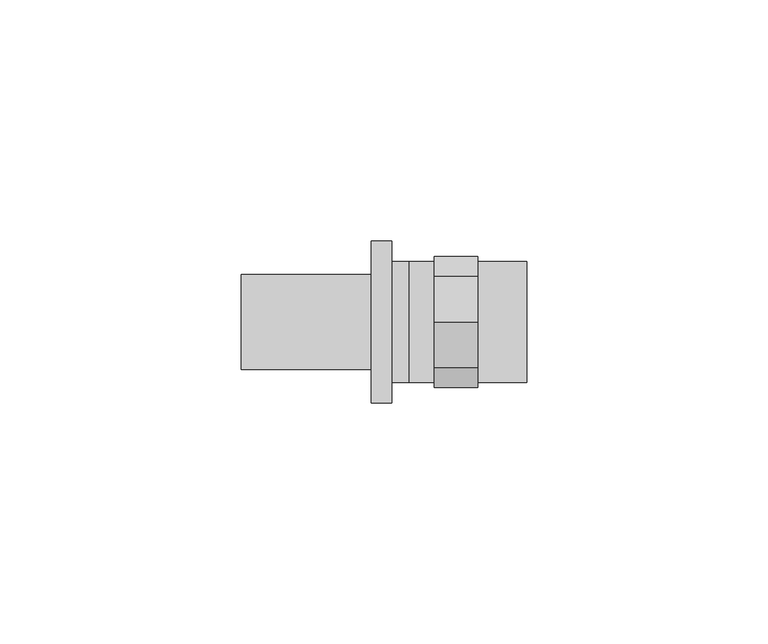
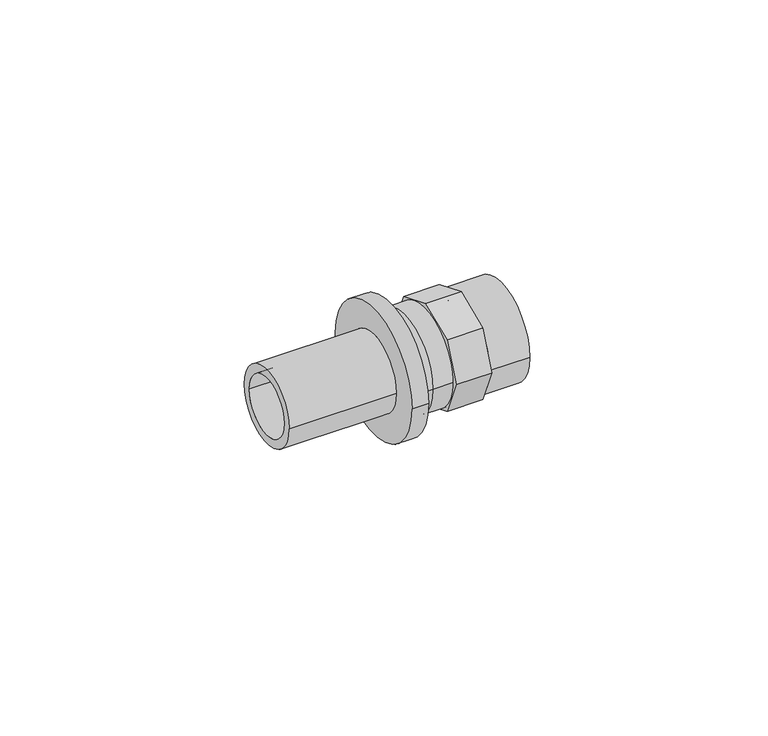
"""IFC4 building model written with IfcOpenShell, lengths in millimetres: pipe fitting geometry, REHAU_RAUTITAN_Adaptor_RX+, with internal thread : REHAU_RAUTITAN_Adaptor_RX+, with internal thread."""

import ifcopenshell
import ifcopenshell.guid

model = None  # the IFC model being written
_history = None  # IfcOwnerHistory: only IFC2X3 demands one
_inside = {}  # id of a spatial element -> (the spatial element, [elements in it])
_under = {}  # id of a project, library or spatial element -> (it, [spatial elements below it])
_declared = {}  # id of a project -> (the project, [libraries it declares])
_typed = {}  # id of a type object -> (the type object, [elements of that type])
_made_of = {}  # id of a material, layer set ... -> (it, [elements and type objects made of it])


def new_model(schema):
    """Start an empty IFC model of exactly this schema.

    Asked for "IFC4X3", IfcOpenShell would pick the latest addendum, in which some entities
    have other attributes; the version numbers below select the first issue.
    IFC2X3 requires an IfcOwnerHistory on every rooted entity: one is made here for all.
    """
    global model, _history
    if schema == "IFC4X3":
        model = ifcopenshell.file(schema_version=(4, 3, 0, 0))
    else:
        model = ifcopenshell.file(schema=schema)
    _inside.clear()
    _under.clear()
    _declared.clear()
    _typed.clear()
    _made_of.clear()
    _history = None
    if model.schema == "IFC2X3":
        org = make("IfcOrganization", Name="unknown")
        user = make(
            "IfcPersonAndOrganization",
            ThePerson=make("IfcPerson", FamilyName="unknown"),
            TheOrganization=org,
        )
        app = make(
            "IfcApplication",
            ApplicationDeveloper=org,
            Version="unknown",
            ApplicationFullName="unknown",
            ApplicationIdentifier="unknown",
        )
        _history = make(
            "IfcOwnerHistory",
            OwningUser=user,
            OwningApplication=app,
            ChangeAction="ADDED",
            CreationDate=0,
        )
    return model


def make(cls, **values):
    """One entity of the class cls with the attributes given. An attribute that is None is left unset."""
    return model.create_entity(
        cls, **{name: value for name, value in values.items() if value is not None}
    )


def rooted(cls, **values):
    """An entity with a GlobalId (a new one), such as an element, a storey or a relation."""
    return make(cls, GlobalId=ifcopenshell.guid.new(), OwnerHistory=_history, **values)


def si_unit(unit_type, name, prefix=None):
    """IfcSIUnit, for example si_unit("LENGTHUNIT", "METRE", prefix="MILLI")."""
    return make("IfcSIUnit", UnitType=unit_type, Prefix=prefix, Name=name)


def assignment(units):
    """IfcUnitAssignment: the units of a project."""
    return None if units is None else make("IfcUnitAssignment", Units=units)


def point(xyz):
    """IfcCartesianPoint."""
    return None if xyz is None else make("IfcCartesianPoint", Coordinates=xyz)


def direction(xyz):
    """IfcDirection."""
    return None if xyz is None else make("IfcDirection", DirectionRatios=xyz)


def frame(location, z_axis=None, x_axis=None):
    """IfcAxis2Placement3D, a coordinate frame: its origin and axes. An axis left out is left unset."""
    return make(
        "IfcAxis2Placement3D",
        Location=point(location),
        Axis=direction(z_axis),
        RefDirection=direction(x_axis),
    )


def frame_2d(location, x_axis=None):
    """IfcAxis2Placement2D, a coordinate frame in the plane: its origin and x axis."""
    return make(
        "IfcAxis2Placement2D", Location=point(location), RefDirection=direction(x_axis)
    )


def origin():
    """The frame at (0, 0, 0) with its axes left unset."""
    return frame((0.0, 0.0, 0.0))


def origin_2d():
    """The frame at (0, 0) in the plane with its x axis left unset."""
    return frame_2d((0.0, 0.0))


def place(relative_to, where):
    """IfcLocalPlacement: puts the frame where relative to a parent placement (None: the world)."""
    return make(
        "IfcLocalPlacement", PlacementRelTo=relative_to, RelativePlacement=where
    )


def context(
    kind, dimensions, precision=None, world=None, true_north=None, identifier=None
):
    """IfcGeometricRepresentationContext, for example the 3D "Model" context."""
    return make(
        "IfcGeometricRepresentationContext",
        ContextIdentifier=identifier,
        ContextType=kind,
        CoordinateSpaceDimension=dimensions,
        Precision=precision,
        WorldCoordinateSystem=world,
        TrueNorth=true_north,
    )


def project(units=None, contexts=None):
    """IfcProject with its units and contexts."""
    return rooted(
        "IfcProject",
        Name="project",
        RepresentationContexts=contexts,
        UnitsInContext=assignment(units),
    )


def spatial(cls, under=None, at=None, **own):
    """A site, building, storey or space (cls), placed at a placement, below another one or the project."""
    s = rooted(cls, ObjectPlacement=at, **own)
    if under is not None:
        _under.setdefault(under.id(), (under, []))[1].append(s)
    return s


def polyline(points):
    """IfcPolyline through the points."""
    return make("IfcPolyline", Points=[point(p) for p in points])


def circle_curve(where, radius):
    """IfcCircle in the frame where."""
    return make("IfcCircle", Position=where, Radius=radius)


def trimmed(basis, trim1, trim2, sense, master):
    """IfcTrimmedCurve: the piece of a basis curve between two trims."""
    return make(
        "IfcTrimmedCurve",
        BasisCurve=basis,
        Trim1=trim1,
        Trim2=trim2,
        SenseAgreement=sense,
        MasterRepresentation=master,
    )


def segment(curve, same_sense, transition):
    """IfcCompositeCurveSegment."""
    return make(
        "IfcCompositeCurveSegment",
        Transition=transition,
        SameSense=same_sense,
        ParentCurve=curve,
    )


def composite_curve(segments, self_intersect=None):
    """IfcCompositeCurve: segments joined end to end."""
    return make("IfcCompositeCurve", Segments=segments, SelfIntersect=self_intersect)


def outline(outer, holes=None, kind="AREA"):
    """IfcArbitraryClosedProfileDef: a profile drawn as a closed curve; with holes, ...WithVoids."""
    if holes is None:
        return make("IfcArbitraryClosedProfileDef", ProfileType=kind, OuterCurve=outer)
    return make(
        "IfcArbitraryProfileDefWithVoids",
        ProfileType=kind,
        OuterCurve=outer,
        InnerCurves=holes,
    )


def extrude(swept, where, along, depth):
    """IfcExtrudedAreaSolid: the profile swept, set in the frame where, extruded along a direction by depth."""
    return make(
        "IfcExtrudedAreaSolid",
        SweptArea=swept,
        Position=where,
        ExtrudedDirection=direction(along),
        Depth=depth,
    )


def shape(context_of_items, identifier, shape_type, items):
    """IfcShapeRepresentation: the items that make up one representation, for example the "Body"."""
    return make(
        "IfcShapeRepresentation",
        ContextOfItems=context_of_items,
        RepresentationIdentifier=identifier,
        RepresentationType=shape_type,
        Items=items,
    )


def source(mapping_origin, context_of_items, identifier, shape_type, items):
    """IfcRepresentationMap: a shape defined once, which mapped items show again and again."""
    return make(
        "IfcRepresentationMap",
        MappingOrigin=mapping_origin,
        MappedRepresentation=shape(context_of_items, identifier, shape_type, items),
    )


def transform(
    local_origin,
    x_axis=None,
    y_axis=None,
    z_axis=None,
    scale=None,
    scale2=None,
    scale3=None,
    uniform=True,
):
    """IfcCartesianTransformationOperator3D, or its non-uniform kind. x_axis, y_axis, z_axis: its Axis1, 2, 3."""
    if uniform:
        return make(
            "IfcCartesianTransformationOperator3D",
            Axis1=direction(x_axis),
            Axis2=direction(y_axis),
            LocalOrigin=point(local_origin),
            Scale=scale,
            Axis3=direction(z_axis),
        )
    return make(
        "IfcCartesianTransformationOperator3DnonUniform",
        Axis1=direction(x_axis),
        Axis2=direction(y_axis),
        LocalOrigin=point(local_origin),
        Scale=scale,
        Axis3=direction(z_axis),
        Scale2=scale2,
        Scale3=scale3,
    )


def mapped(mapping_source, mapping_target):
    """IfcMappedItem: shows the shape of a source again, moved by a transform."""
    return make(
        "IfcMappedItem", MappingSource=mapping_source, MappingTarget=mapping_target
    )


def made_of(thing, what):
    """Note that an element or type object is made of a material, layer set ...; save() writes the relation."""
    if what is not None:
        _made_of.setdefault(what.id(), (what, []))[1].append(thing)
    return thing


def element(
    cls,
    number,
    at=None,
    inside=None,
    cuts=None,
    type_object=None,
    material=None,
    context=None,
    identifier="Body",
    shape_type=None,
    held_by="IfcProductDefinitionShape",
    body=None,
    shapes=None,
    **own,
):
    """One element of the class cls, such as IfcWall. Its Tag is "e" and its number.

    at: its placement. inside: the storey or other place that contains it. cuts: it is an
    opening in that element (IfcRelVoidsElement). A single representation is given by context,
    identifier, shape_type and body (its items); several are given by shapes. held_by: the class
    of the entity that holds the representations. save() writes the other relations.
    """
    e = rooted(cls, Tag="e%d" % number, ObjectPlacement=at, **own)
    if body is not None:
        shapes = [shape(context, identifier, shape_type, body)]
    if shapes is not None:
        e.Representation = make(held_by, Representations=shapes)
    if inside is not None:
        _inside.setdefault(inside.id(), (inside, []))[1].append(e)
    if cuts is not None:
        rooted(
            "IfcRelVoidsElement", RelatingBuildingElement=cuts, RelatedOpeningElement=e
        )
    if type_object is not None:
        _typed.setdefault(type_object.id(), (type_object, []))[1].append(e)
    return made_of(e, material)


def aggregate(whole, parts):
    """IfcRelAggregates: a whole, such as a stair, and the parts it consists of."""
    return rooted("IfcRelAggregates", RelatingObject=whole, RelatedObjects=parts)


def save(model, path):
    """Write the relations noted so far, then the file.

    IfcRelAggregates (storeys below a building ...), IfcRelContainedInSpatialStructure (elements
    in a storey), IfcRelDefinesByType, IfcRelAssociatesMaterial and IfcRelDeclares: one each for
    every whole, place, type object, material and project.
    """
    for whole, parts in _under.values():
        aggregate(whole, parts)
    for where, things in _inside.values():
        rooted(
            "IfcRelContainedInSpatialStructure",
            RelatedElements=things,
            RelatingStructure=where,
        )
    for kind, things in _typed.values():
        rooted("IfcRelDefinesByType", RelatedObjects=things, RelatingType=kind)
    for what, things in _made_of.values():
        rooted("IfcRelAssociatesMaterial", RelatedObjects=things, RelatingMaterial=what)
    for by, libraries in _declared.values():
        rooted("IfcRelDeclares", RelatingContext=by, RelatedDefinitions=libraries)
    model.write(path)


def plane_surface(at):
    """IfcPlane: the flat surface through the origin of the frame at, square to its z axis."""
    return make("IfcPlane", Position=at)


def cylinder_surface(at, radius):
    """IfcCylindricalSurface: all points at the distance radius from the z axis of the frame at."""
    return make("IfcCylindricalSurface", Position=at, Radius=radius)


def revolved_surface(curve, axis_point, axis_direction):
    """IfcSurfaceOfRevolution: the curve turned about the line through axis_point along axis_direction."""
    return make(
        "IfcSurfaceOfRevolution",
        SweptCurve=make("IfcArbitraryOpenProfileDef", ProfileType="CURVE", Curve=curve),
        AxisPosition=make("IfcAxis1Placement", Location=point(axis_point), Axis=direction(axis_direction)),
    )


def advanced_brep(points, edges, surfaces, faces):
    """IfcAdvancedBrep: a solid bounded by faces that lie on surfaces and meet in shared edges.

    An edge is (start, end): straight between two places in points (the first is 0);
    or (start, end, curve); or (start, end, curve, False) where it runs against its curve.
    A face is (place in surfaces, loops), or (place, loops, False) where it looks against
    its surface's normal. A loop lists edges by number (the first is 1), with a minus sign
    where the edge is run from its end to its start. The first loop is the outer one.
    """
    corners = [point(p) for p in points]
    vertices = [make("IfcVertexPoint", VertexGeometry=c) for c in corners]
    made = []
    for start, end, *more in edges:
        made.append(
            make(
                "IfcEdgeCurve",
                EdgeStart=vertices[start],
                EdgeEnd=vertices[end],
                EdgeGeometry=more[0] if more else make("IfcPolyline", Points=[corners[start], corners[end]]),
                SameSense=more[1] if len(more) > 1 else True,
            )
        )
    hull = []
    for where, loops, *sense in faces:
        bounds = []
        for j, loop in enumerate(loops):
            ring = [make("IfcOrientedEdge", EdgeElement=made[abs(k) - 1], Orientation=k > 0) for k in loop]
            bounds.append(
                make(
                    "IfcFaceOuterBound" if j == 0 else "IfcFaceBound",
                    Bound=make("IfcEdgeLoop", EdgeList=ring),
                    Orientation=True,
                )
            )
        hull.append(make("IfcAdvancedFace", Bounds=bounds, FaceSurface=surfaces[where], SameSense=sense[0] if sense else True))
    return make("IfcAdvancedBrep", Outer=make("IfcClosedShell", CfsFaces=hull))


def pipe_fitting_62e479d9(model_context):
    return source(origin(), model_context, "Body", "SolidModel", [
        extrude(outline(polyline([(-9.5670858, 9.5670858), (0.0, 13.5299025), (9.5670858, 9.5670858), (13.5299025, 0.0), (9.5670858, -9.5670858), (0.0, -13.5299025), (-9.5670858, -9.5670858), (-13.5299025, 0.0), (-9.5670858, 9.5670858)]), holes=[composite_curve([segment(trimmed(circle_curve(origin_2d(), 9.5), [point((-9.5, 0.0))], [point((9.5, 0.0))], True, "CARTESIAN"), True, "CONTINUOUS"), segment(trimmed(circle_curve(origin_2d(), 9.5), [point((9.5, 0.0))], [point((-9.5, 0.0))], True, "CARTESIAN"), True, "CONTINUOUS")], self_intersect=False)]), frame((-4.5, 0.0, 0.0), z_axis=(1.0, 0.0, 0.0), x_axis=(0.0, 1.0, 0.0)), (0.0, 0.0, 1.0), 9.0),
        extrude(outline(composite_curve([segment(trimmed(circle_curve(origin_2d(), 12.5), [point((-12.5, 0.0))], [point((12.5, 0.0))], False, "CARTESIAN"), True, "CONTINUOUS"), segment(trimmed(circle_curve(origin_2d(), 12.5), [point((12.5, 0.0))], [point((-12.5, 0.0))], False, "CARTESIAN"), True, "CONTINUOUS")], self_intersect=False), holes=[composite_curve([segment(trimmed(circle_curve(origin_2d(), 10.19), [point((-10.19, 0.0))], [point((10.19, 0.0))], True, "CARTESIAN"), True, "CONTINUOUS"), segment(trimmed(circle_curve(origin_2d(), 10.19), [point((10.19, 0.0))], [point((-10.19, 0.0))], True, "CARTESIAN"), True, "CONTINUOUS")], self_intersect=False)]), frame((4.5, 0.0, 0.0), z_axis=(1.0, 0.0, 0.0), x_axis=(0.0, 1.0, 0.0)), (0.0, 0.0, 1.0), 10.14),
        advanced_brep(
        [(-9.82, 12.5, 0.0), (-9.82, -12.5, 0.0), (-13.36, -12.5, 0.0), (-13.36, 12.5, 0.0), (-4.36, 12.5, 0.0), (-4.36, -12.5, 0.0), (-9.82, 10.19, 0.0), (-9.82, -10.19, 0.0), (-4.36, -10.19, 0.0), (-4.36, 10.19, 0.0), (-44.56, 7.6, 0.0), (-44.56, -7.6, 0.0), (-13.36, -7.6, 0.0), (-13.36, 7.6, 0.0), (-17.57, 9.875, 0.0), (-17.57, -9.875, 0.0), (-44.56, -9.875, 0.0), (-44.56, 9.875, 0.0), (-13.36, 16.795, 0.0), (-13.36, -16.795, 0.0), (-17.57, -16.795, 0.0), (-17.57, 16.795, 0.0)],
        [
            (0, 1, circle_curve(frame((-9.82, 0.0, 0.0), z_axis=(-1.0, 0.0, 0.0), x_axis=(0.0, -1.0, 0.0)), 12.5)),
            (1, 2),
            (2, 3, circle_curve(frame((-13.36, 0.0, 0.0), z_axis=(1.0, 0.0, 0.0), x_axis=(0.0, -1.0, 0.0)), 12.5)),
            (3, 0),
            (4, 5, circle_curve(frame((-4.36, 0.0, 0.0), z_axis=(-1.0, 0.0, 0.0), x_axis=(0.0, -1.0, 0.0)), 12.5)),
            (5, 1),
            (0, 4),
            (6, 7, circle_curve(frame((-9.82, 0.0, 0.0), z_axis=(-1.0, 0.0, 0.0), x_axis=(0.0, -1.0, 0.0)), 10.19)),
            (7, 8),
            (8, 9, circle_curve(frame((-4.36, 0.0, 0.0), z_axis=(1.0, 0.0, 0.0), x_axis=(0.0, -1.0, 0.0)), 10.19)),
            (9, 6),
            (10, 11, circle_curve(frame((-44.56, 0.0, 0.0), z_axis=(-1.0, 0.0, 0.0), x_axis=(0.0, -1.0, 0.0)), 7.6)),
            (11, 12),
            (12, 13, circle_curve(frame((-13.36, 0.0, 0.0), z_axis=(1.0, 0.0, 0.0), x_axis=(0.0, -1.0, 0.0)), 7.6)),
            (13, 10),
            (14, 15, circle_curve(frame((-17.57, 0.0, 0.0), z_axis=(-1.0, 0.0, 0.0), x_axis=(0.0, -1.0, 0.0)), 9.875)),
            (15, 16),
            (16, 17, circle_curve(frame((-44.56, 0.0, 0.0), z_axis=(1.0, 0.0, 0.0), x_axis=(0.0, -1.0, 0.0)), 9.875)),
            (17, 14),
            (18, 19, circle_curve(frame((-13.36, 0.0, 0.0), z_axis=(-1.0, 0.0, 0.0), x_axis=(0.0, -1.0, 0.0)), 16.795)),
            (19, 20),
            (20, 21, circle_curve(frame((-17.57, 0.0, 0.0), z_axis=(1.0, 0.0, 0.0), x_axis=(0.0, -1.0, 0.0)), 16.795)),
            (21, 18),
            (18, 19, circle_curve(frame((-13.36, 0.0, 0.0), z_axis=(1.0, 0.0, 0.0), x_axis=(0.0, 1.0, 0.0)), 16.795)),
            (2, 3, circle_curve(frame((-13.36, 0.0, 0.0), z_axis=(-1.0, 0.0, 0.0), x_axis=(0.0, 1.0, 0.0)), 12.5)),
            (1, 0, circle_curve(frame((-9.82, 0.0, 0.0), z_axis=(-1.0, 0.0, 0.0), x_axis=(0.0, 1.0, 0.0)), 12.5)),
            (5, 4, circle_curve(frame((-4.36, 0.0, 0.0), z_axis=(-1.0, 0.0, 0.0), x_axis=(0.0, 1.0, 0.0)), 12.5)),
            (7, 6, circle_curve(frame((-9.82, 0.0, 0.0), z_axis=(-1.0, 0.0, 0.0), x_axis=(0.0, 1.0, 0.0)), 10.19)),
            (9, 8, circle_curve(frame((-4.36, 0.0, 0.0), z_axis=(1.0, 0.0, 0.0), x_axis=(0.0, 1.0, 0.0)), 10.19)),
            (11, 10, circle_curve(frame((-44.56, 0.0, 0.0), z_axis=(-1.0, 0.0, 0.0), x_axis=(0.0, 1.0, 0.0)), 7.6)),
            (13, 12, circle_curve(frame((-13.36, 0.0, 0.0), z_axis=(1.0, 0.0, 0.0), x_axis=(0.0, 1.0, 0.0)), 7.6)),
            (16, 17, circle_curve(frame((-44.56, 0.0, 0.0), z_axis=(-1.0, 0.0, 0.0), x_axis=(0.0, 1.0, 0.0)), 9.875)),
            (15, 14, circle_curve(frame((-17.57, 0.0, 0.0), z_axis=(-1.0, 0.0, 0.0), x_axis=(0.0, 1.0, 0.0)), 9.875)),
            (20, 21, circle_curve(frame((-17.57, 0.0, 0.0), z_axis=(-1.0, 0.0, 0.0), x_axis=(0.0, 1.0, 0.0)), 16.795)),
            (12, 7),
            (6, 13),
        ],
        [
            cylinder_surface(frame((0.0, 0.0, 0.0), z_axis=(1.0, 0.0, 0.0), x_axis=(0.0, -1.0, 0.0)), 12.5),
            revolved_surface(polyline([(-4.36, -10.19, 0.0), (-9.82, -10.19, 0.0)]), (0.0, 0.0, 0.0), (1.0, 0.0, 0.0)),
            revolved_surface(polyline([(-13.36, -7.6, 0.0), (-44.56, -7.6, 0.0)]), (0.0, 0.0, 0.0), (1.0, 0.0, 0.0)),
            cylinder_surface(frame((0.0, 0.0, 0.0), z_axis=(1.0, 0.0, 0.0), x_axis=(0.0, -1.0, 0.0)), 9.875),
            cylinder_surface(frame((0.0, 0.0, 0.0), z_axis=(1.0, 0.0, 0.0), x_axis=(0.0, -1.0, 0.0)), 16.795),
            plane_surface(frame((-13.36, 0.0, 0.0), z_axis=(1.0, 0.0, 0.0), x_axis=(0.0, 1.0, 0.0))),
            cylinder_surface(frame((0.0, 0.0, 0.0), z_axis=(1.0, 0.0, 0.0), x_axis=(0.0, 1.0, 0.0)), 12.5),
            revolved_surface(polyline([(-4.36, 10.19, 0.0), (-9.82, 10.19, 0.0)]), (0.0, 0.0, 0.0), (1.0, 0.0, 0.0)),
            revolved_surface(polyline([(-13.36, 7.6, 0.0), (-44.56, 7.6, 0.0)]), (0.0, 0.0, 0.0), (1.0, 0.0, 0.0)),
            plane_surface(frame((-44.56, 0.0, 0.0), z_axis=(-1.0, 0.0, 0.0), x_axis=(0.0, 1.0, 0.0))),
            cylinder_surface(frame((0.0, 0.0, 0.0), z_axis=(1.0, 0.0, 0.0), x_axis=(0.0, 1.0, 0.0)), 9.875),
            plane_surface(frame((-17.57, 0.0, 0.0), z_axis=(-1.0, 0.0, 0.0), x_axis=(0.0, 1.0, 0.0))),
            cylinder_surface(frame((0.0, 0.0, 0.0), z_axis=(1.0, 0.0, 0.0), x_axis=(0.0, 1.0, 0.0)), 16.795),
            revolved_surface(polyline([(-9.82, -10.19, 0.0), (-13.36, -7.6, 0.0)]), (0.0, 0.0, 0.0), (1.0, 0.0, 0.0)),
            revolved_surface(polyline([(-9.82, 10.19, 0.0), (-13.36, 7.6, 0.0)]), (0.0, 0.0, 0.0), (1.0, 0.0, 0.0)),
            plane_surface(frame((-4.36, 0.0, 0.0), z_axis=(1.0, 0.0, 0.0), x_axis=(0.0, 1.0, 0.0))),
        ],
        [
            (0, [[1, 2, 3, 4]]),
            (0, [[5, 6, -1, 7]]),
            (1, [[8, 9, 10, 11]]),
            (2, [[12, 13, 14, 15]]),
            (3, [[16, 17, 18, 19]]),
            (4, [[20, 21, 22, 23]]),
            (5, [[24, -20], [25, -3]]),
            (6, [[26, -4, -25, -2]]),
            (6, [[27, -7, -26, -6]]),
            (7, [[28, -11, 29, -9]]),
            (8, [[30, -15, 31, -13]]),
            (9, [[32, -18], [-30, -12]]),
            (10, [[33, -19, -32, -17]]),
            (11, [[34, -22], [-33, -16]]),
            (12, [[-24, -23, -34, -21]]),
            (13, [[-14, 35, -8, 36]]),
            (14, [[-31, -36, -28, -35]]),
            (15, [[-27, -5], [-29, -10]]),
        ],
    ),
    ])


if __name__ == "__main__":
    model = new_model("IFC4")
    model_context = context("Model", 3, world=origin())
    ifc_project = project(units=[si_unit("LENGTHUNIT", "METRE", prefix="MILLI")], contexts=[model_context])
    site = spatial("IfcSite", under=ifc_project)
    building = spatial("IfcBuilding", under=site)
    placement = place(None, origin())
    pipe_fitting_shape = pipe_fitting_62e479d9(model_context)
    element("IfcPipeFitting", 1, ObjectType="REHAU_RAUTITAN_Adaptor_RX+, with internal thread : REHAU_RAUTITAN_Adaptor_RX+, with internal thread", at=placement, inside=building, context=model_context, shape_type="MappedRepresentation", body=[
        mapped(pipe_fitting_shape, transform((0.0, 0.0, 0.0), x_axis=(1.0, 0.0, 0.0), y_axis=(0.0, 1.0, 0.0), z_axis=(0.0, 0.0, 1.0))),
    ])
    save(model, "model.ifc")
